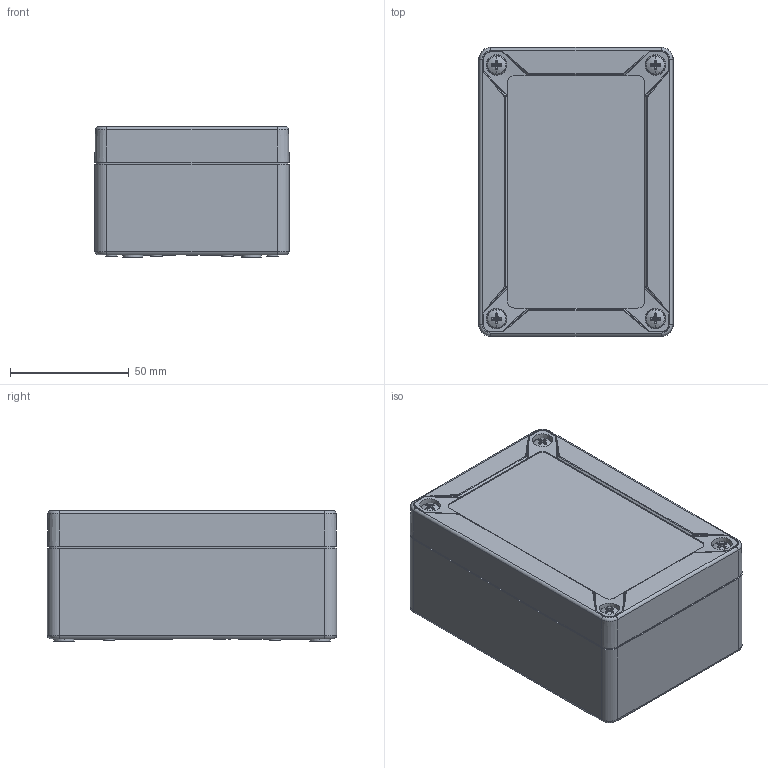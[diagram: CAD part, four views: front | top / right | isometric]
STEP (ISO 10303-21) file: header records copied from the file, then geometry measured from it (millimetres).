
FILE_DESCRIPTION (( 'STEP AP214' ), '1' );
FILE_NAME ('SG-11-03.STEP', '2026-02-27T17:29:47', ( '' ), ( '' ), 'SwSTEP 2.0', 'SolidWorks 2025', '' );
FILE_SCHEMA (( 'AUTOMOTIVE_DESIGN' ));
Length unit declared in the file: inch
Products named in the file (7): SCREWS-022_SCREWS-022; SG-11-03; SG-11C_SG-11C-03; SG-98S; SCREWS-018_defaut; SG-11B_SG-11B-02; SG-KIT-01
Assembly tree (13 placements, depth 3):
  SG-11-03
    SG-11B_SG-11B-02
    SG-11C_SG-11C-03
    SG-KIT-01
      SCREWS-018_defaut  x4
      SCREWS-022_SCREWS-022  x4
      SG-98S  x2
Bounding box: 82 x 122 x 55 mm (x, y, z)
Volume: 136636 mm3; surface area: 111574.4 mm2
Topology: 9 solids, 13 shells, 2709 faces, 6730 edges, 4028 vertices
Faces by surface type: cylinder 885, plane 769, bspline 537, torus 276, cone 142, sphere 100
Entity records: 66332 total; most frequent: CARTESIAN_POINT 28213, ORIENTED_EDGE 8260, DIRECTION 7615, EDGE_CURVE 4130, AXIS2_PLACEMENT_3D 2840, VERTEX_POINT 2589, VECTOR 1935, LINE 1935
